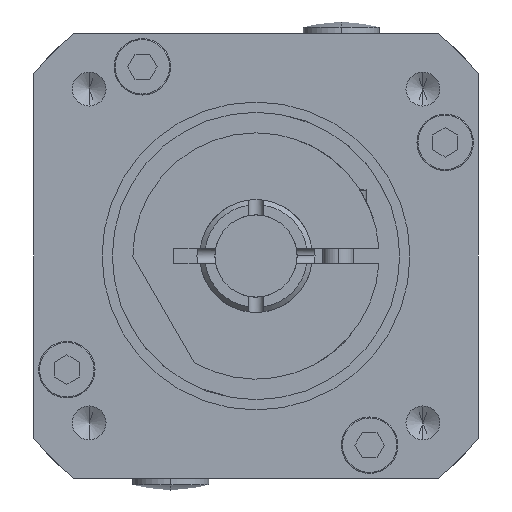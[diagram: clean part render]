
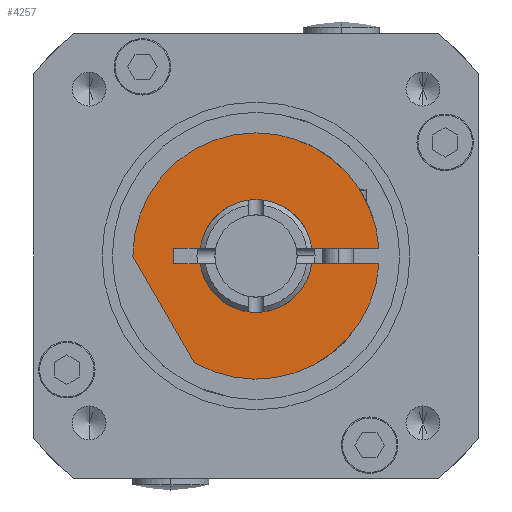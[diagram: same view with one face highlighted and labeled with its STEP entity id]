
A CAD part, left-side view. The second image highlights one B-rep face of the part: STEP entity #4257.
In plain terms, the highlighted planar face has unit normal (-1, 0, 0).
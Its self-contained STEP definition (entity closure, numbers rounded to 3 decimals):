
#20 = CARTESIAN_POINT ( 'NONE',  ( -31., -11.977, 0.75 ) ) ;
#94 = ORIENTED_EDGE ( 'NONE', *, *, #4434, .T. ) ;
#171 = VERTEX_POINT ( 'NONE', #3656 ) ;
#195 = CARTESIAN_POINT ( 'NONE',  ( -31., 5.449, 0.75 ) ) ;
#392 = CARTESIAN_POINT ( 'NONE',  ( -31., -5.449, 0.75 ) ) ;
#416 = EDGE_CURVE ( 'NONE', #9682, #4752, #5927, .T. ) ;
#637 = ORIENTED_EDGE ( 'NONE', *, *, #6631, .T. ) ;
#797 = CARTESIAN_POINT ( 'NONE',  ( -31., 5.449, 0.75 ) ) ;
#899 = CARTESIAN_POINT ( 'NONE',  ( -31., -11.977, -0.75 ) ) ;
#924 = PLANE ( 'NONE',  #4622 ) ;
#933 = EDGE_CURVE ( 'NONE', #3286, #4456, #9471, .T. ) ;
#1228 = VECTOR ( 'NONE', #4838, 1000. ) ;
#1245 = VERTEX_POINT ( 'NONE', #392 ) ;
#1279 = CARTESIAN_POINT ( 'NONE',  ( -31., 0., 0. ) ) ;
#1379 = DIRECTION ( 'NONE',  ( 0., 0., -1. ) ) ;
#1562 = EDGE_CURVE ( 'NONE', #4752, #10848, #12073, .T. ) ;
#1585 = CARTESIAN_POINT ( 'NONE',  ( -31., 0., 0. ) ) ;
#2124 = AXIS2_PLACEMENT_3D ( 'NONE', #12100, #11032, #13138 ) ;
#2339 = CARTESIAN_POINT ( 'NONE',  ( -31., 8., 0.75 ) ) ;
#2393 = AXIS2_PLACEMENT_3D ( 'NONE', #8853, #5120, #7824 ) ;
#2667 = AXIS2_PLACEMENT_3D ( 'NONE', #8777, #6792, #5804 ) ;
#2815 = ORIENTED_EDGE ( 'NONE', *, *, #416, .T. ) ;
#3020 = EDGE_CURVE ( 'NONE', #1245, #13345, #4719, .T. ) ;
#3045 = ORIENTED_EDGE ( 'NONE', *, *, #4394, .T. ) ;
#3286 = VERTEX_POINT ( 'NONE', #195 ) ;
#3368 = CARTESIAN_POINT ( 'NONE',  ( -31., 0., 0. ) ) ;
#3656 = CARTESIAN_POINT ( 'NONE',  ( -31., 8., -0.75 ) ) ;
#3735 = VERTEX_POINT ( 'NONE', #5044 ) ;
#3761 = EDGE_LOOP ( 'NONE', ( #11420, #94, #637, #5563, #6431, #12874, #5059, #10397, #3045, #8976, #9412, #2815 ) ) ;
#3890 = VECTOR ( 'NONE', #9551, 1000. ) ;
#4212 = EDGE_CURVE ( 'NONE', #3735, #3286, #7510, .T. ) ;
#4257 = ADVANCED_FACE ( 'NONE', ( #7194 ), #924, .T. ) ;
#4394 = EDGE_CURVE ( 'NONE', #8569, #9552, #8467, .T. ) ;
#4434 = EDGE_CURVE ( 'NONE', #10848, #171, #13357, .T. ) ;
#4452 = CARTESIAN_POINT ( 'NONE',  ( -31., -11.977, -0.75 ) ) ;
#4456 = VERTEX_POINT ( 'NONE', #12412 ) ;
#4514 = CARTESIAN_POINT ( 'NONE',  ( -31., -11.977, 0.75 ) ) ;
#4588 = CARTESIAN_POINT ( 'NONE',  ( -31., -5.449, -0.75 ) ) ;
#4622 = AXIS2_PLACEMENT_3D ( 'NONE', #11278, #8186, #8143 ) ;
#4719 = LINE ( 'NONE', #20, #9746 ) ;
#4752 = VERTEX_POINT ( 'NONE', #4588 ) ;
#4838 = DIRECTION ( 'NONE',  ( 0., -1., 0. ) ) ;
#5044 = CARTESIAN_POINT ( 'NONE',  ( -31., 8., 0.75 ) ) ;
#5059 = ORIENTED_EDGE ( 'NONE', *, *, #3020, .T. ) ;
#5086 = VECTOR ( 'NONE', #12176, 1000. ) ;
#5120 = DIRECTION ( 'NONE',  ( 1., 0., 0. ) ) ;
#5130 = VECTOR ( 'NONE', #8691, 1000. ) ;
#5563 = ORIENTED_EDGE ( 'NONE', *, *, #4212, .T. ) ;
#5569 = DIRECTION ( 'NONE',  ( 1., 0., 0. ) ) ;
#5700 = EDGE_CURVE ( 'NONE', #4456, #1245, #10693, .T. ) ;
#5804 = DIRECTION ( 'NONE',  ( 0., 0., -1. ) ) ;
#5927 = LINE ( 'NONE', #4452, #5130 ) ;
#5969 = AXIS2_PLACEMENT_3D ( 'NONE', #3368, #6394, #1379 ) ;
#6394 = DIRECTION ( 'NONE',  ( 1., 0., 0. ) ) ;
#6431 = ORIENTED_EDGE ( 'NONE', *, *, #933, .T. ) ;
#6631 = EDGE_CURVE ( 'NONE', #171, #3735, #9878, .T. ) ;
#6792 = DIRECTION ( 'NONE',  ( -1., 0., 0. ) ) ;
#7194 = FACE_OUTER_BOUND ( 'NONE', #3761, .T. ) ;
#7215 = DIRECTION ( 'NONE',  ( 0., -1., 0. ) ) ;
#7510 = LINE ( 'NONE', #797, #1228 ) ;
#7824 = DIRECTION ( 'NONE',  ( 0., 0., -1. ) ) ;
#7901 = DIRECTION ( 'NONE',  ( 0., 0., -1. ) ) ;
#8109 = DIRECTION ( 'NONE',  ( 0., -0.5, -0.866 ) ) ;
#8143 = DIRECTION ( 'NONE',  ( 0., 0., -1. ) ) ;
#8146 = AXIS2_PLACEMENT_3D ( 'NONE', #1279, #5569, #9531 ) ;
#8186 = DIRECTION ( 'NONE',  ( -1., 0., 0. ) ) ;
#8467 = CIRCLE ( 'NONE', #13147, 12. ) ;
#8520 = LINE ( 'NONE', #12439, #9185 ) ;
#8569 = VERTEX_POINT ( 'NONE', #10233 ) ;
#8691 = DIRECTION ( 'NONE',  ( 0., 1., 0. ) ) ;
#8777 = CARTESIAN_POINT ( 'NONE',  ( -31., 0., 0. ) ) ;
#8853 = CARTESIAN_POINT ( 'NONE',  ( -31., 0., 0. ) ) ;
#8976 = ORIENTED_EDGE ( 'NONE', *, *, #9667, .T. ) ;
#9066 = CARTESIAN_POINT ( 'NONE',  ( -31., 12., -0.015 ) ) ;
#9082 = EDGE_CURVE ( 'NONE', #13375, #9682, #10318, .T. ) ;
#9185 = VECTOR ( 'NONE', #8109, 1000. ) ;
#9412 = ORIENTED_EDGE ( 'NONE', *, *, #9082, .T. ) ;
#9471 = CIRCLE ( 'NONE', #5969, 5.5 ) ;
#9531 = DIRECTION ( 'NONE',  ( 0., 0., -1. ) ) ;
#9551 = DIRECTION ( 'NONE',  ( 0., 0., 1. ) ) ;
#9552 = VERTEX_POINT ( 'NONE', #9066 ) ;
#9612 = CARTESIAN_POINT ( 'NONE',  ( -31., 5.449, -0.75 ) ) ;
#9667 = EDGE_CURVE ( 'NONE', #9552, #13375, #8520, .T. ) ;
#9682 = VERTEX_POINT ( 'NONE', #899 ) ;
#9746 = VECTOR ( 'NONE', #7215, 1000. ) ;
#9878 = LINE ( 'NONE', #2339, #3890 ) ;
#10000 = EDGE_CURVE ( 'NONE', #13345, #8569, #11942, .T. ) ;
#10016 = DIRECTION ( 'NONE',  ( -1., 0., 0. ) ) ;
#10233 = CARTESIAN_POINT ( 'NONE',  ( -31., 0., 12. ) ) ;
#10318 = CIRCLE ( 'NONE', #2124, 12. ) ;
#10397 = ORIENTED_EDGE ( 'NONE', *, *, #10000, .T. ) ;
#10693 = CIRCLE ( 'NONE', #2393, 5.5 ) ;
#10762 = CARTESIAN_POINT ( 'NONE',  ( -31., 6.013, -10.385 ) ) ;
#10848 = VERTEX_POINT ( 'NONE', #9612 ) ;
#11032 = DIRECTION ( 'NONE',  ( -1., 0., 0. ) ) ;
#11278 = CARTESIAN_POINT ( 'NONE',  ( -31., 0., 0. ) ) ;
#11420 = ORIENTED_EDGE ( 'NONE', *, *, #1562, .T. ) ;
#11942 = CIRCLE ( 'NONE', #2667, 12. ) ;
#12073 = CIRCLE ( 'NONE', #8146, 5.5 ) ;
#12100 = CARTESIAN_POINT ( 'NONE',  ( -31., 0., 0. ) ) ;
#12176 = DIRECTION ( 'NONE',  ( 0., 1., 0. ) ) ;
#12412 = CARTESIAN_POINT ( 'NONE',  ( -31., 0., 5.5 ) ) ;
#12439 = CARTESIAN_POINT ( 'NONE',  ( -31., 6.013, -10.385 ) ) ;
#12492 = CARTESIAN_POINT ( 'NONE',  ( -31., 5.449, -0.75 ) ) ;
#12874 = ORIENTED_EDGE ( 'NONE', *, *, #5700, .T. ) ;
#13138 = DIRECTION ( 'NONE',  ( 0., 0., -1. ) ) ;
#13147 = AXIS2_PLACEMENT_3D ( 'NONE', #1585, #10016, #7901 ) ;
#13345 = VERTEX_POINT ( 'NONE', #4514 ) ;
#13357 = LINE ( 'NONE', #12492, #5086 ) ;
#13375 = VERTEX_POINT ( 'NONE', #10762 ) ;
